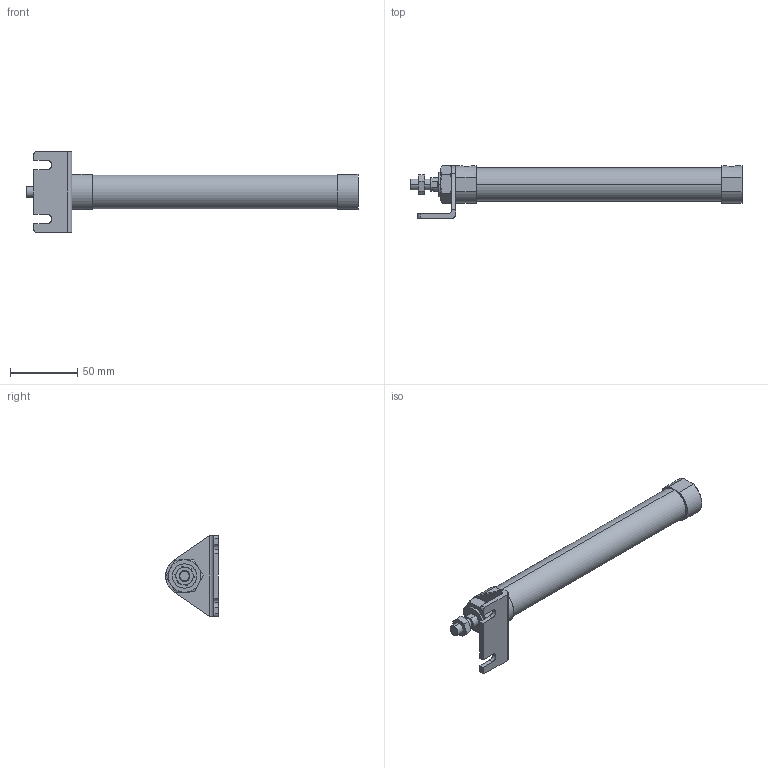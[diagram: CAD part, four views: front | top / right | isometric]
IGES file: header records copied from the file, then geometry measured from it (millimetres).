
Start section: SolidWorks IGES file using analytic representation for surfaces
Global section: file name: C:\Users\Toshiba\Desktop\JGND2-20-150-L.IGS; native system: SolidWorks 2014; preprocessor: SolidWorks 2014; author: Toshiba; date: 160804.103324; units: millimetre
Bounding box: 246 x 39 x 60 mm (x, y, z)
Surface area: 28616.3 mm2 (no closed solid volume)
Topology: 0 solids, 0 shells, 111 faces, 1814 edges, 1814 vertices
Faces by surface type: bspline 73, revolution 38
